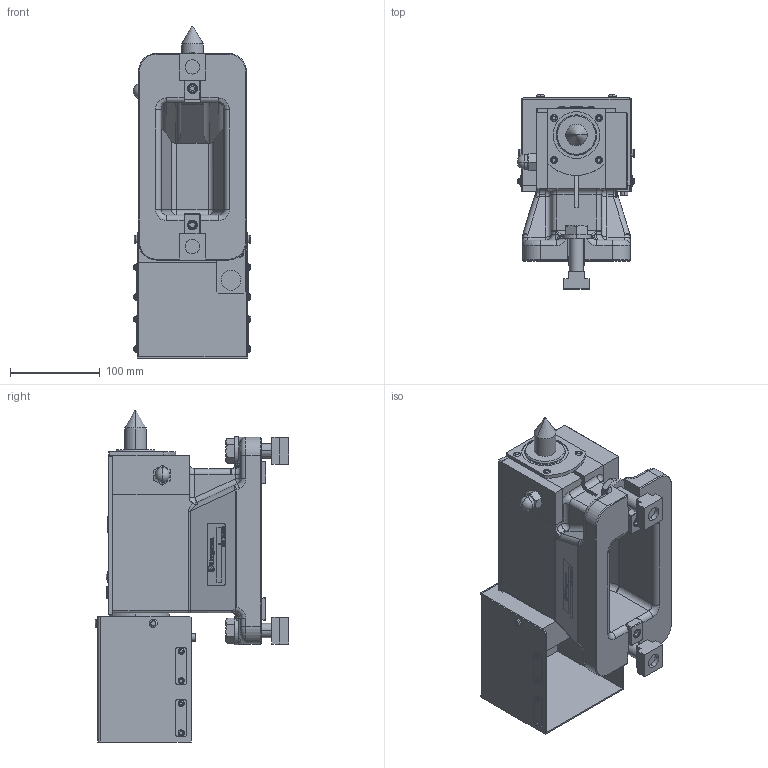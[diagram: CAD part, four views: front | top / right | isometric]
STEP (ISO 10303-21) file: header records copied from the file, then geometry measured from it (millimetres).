
FILE_DESCRIPTION (( 'STEP AP214' ), '1' );
FILE_NAME ('MR200A(H)N／TS200A(H)N.STEP', '2020-03-20T04:57:05', ( '' ), ( '' ), 'SwSTEP 2.0', 'SolidWorks 2017', '' );
FILE_SCHEMA (( 'AUTOMOTIVE_DESIGN' ));
Length unit declared in the file: millimetre
Products named in the file (13): ボデー(61E2474152)MR200RN; MR200A(H)N／TS200A(H)N; CLAMPING PARTS(61E4343671)結合; MR200A(H)N儂儞僞僀; シールホルダ(61E4300661)RS016RSA; フクロナット　ツイカコウ(61E4712370)TS200HN; 僇僶乕PAD(61E8155783)TS200HN; センタソケット; ネームプレート(61E4736691); カバー(61E4494422)TS200RH12; クランププレートＢ(61E427913); クランププレートＡ(61E427912); ガイドブロック(61M4197783)
Assembly tree (14 placements, depth 3):
  MR200A(H)N／TS200A(H)N
    MR200A(H)N儂儞僞僀
      ボデー(61E2474152)MR200RN
      ガイドブロック(61M4197783)  x2
      クランププレートＡ(61E427912)
      クランププレートＢ(61E427913)
      カバー(61E4494422)TS200RH12
      ネームプレート(61E4736691)
      センタソケット
      僇僶乕PAD(61E8155783)TS200HN
      フクロナット　ツイカコウ(61E4712370)TS200HN
      シールホルダ(61E4300661)RS016RSA
    CLAMPING PARTS(61E4343671)結合  x2
Bounding box: 131.1 x 215.9 x 369.51 mm (x, y, z)
Volume: 2808810.7 mm3; surface area: 464321.8 mm2
Topology: 13 solids, 13 shells, 2230 faces, 6000 edges, 3893 vertices
Faces by surface type: plane 1737, cylinder 294, torus 68, cone 66, bspline 51, sphere 14
Entity records: 77238 total; most frequent: CARTESIAN_POINT 17386, ORIENTED_EDGE 11608, DIRECTION 10585, EDGE_CURVE 5804, LINE 4929, VECTOR 4929, VERTEX_POINT 3791, AXIS2_PLACEMENT_3D 2828
